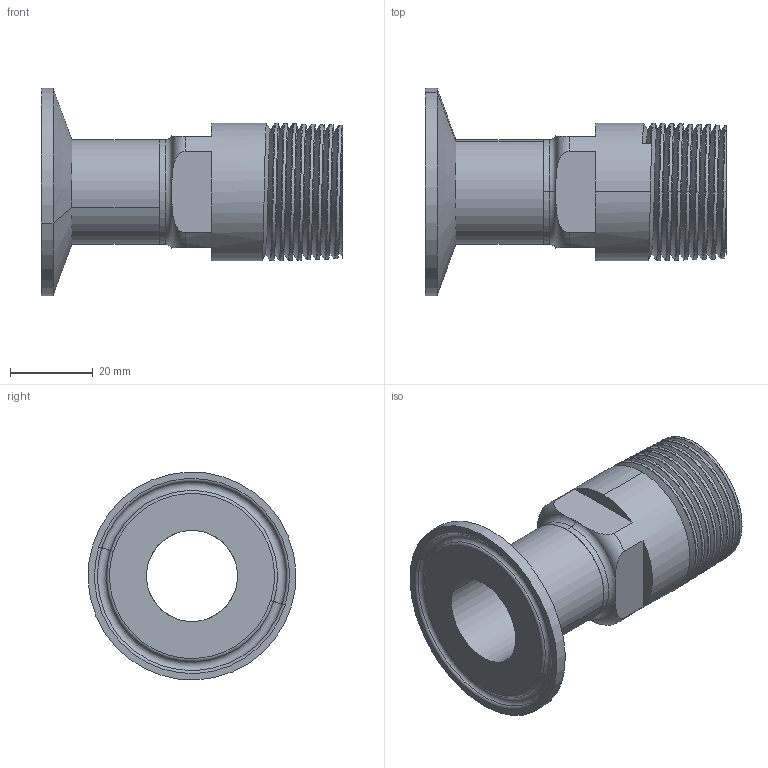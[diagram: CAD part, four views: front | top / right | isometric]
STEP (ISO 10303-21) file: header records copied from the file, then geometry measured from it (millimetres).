
FILE_DESCRIPTION (( 'STEP AP203' ), '1' );
FILE_NAME ('EG21 1.0.STEP', '2021-10-06T15:14:46', ( '' ), ( '' ), 'SwSTEP 2.0', 'SolidWorks 2021', '' );
FILE_SCHEMA (( 'CONFIG_CONTROL_DESIGN' ));
Length unit declared in the file: inch
Products named in the file (3): 19WBF1.0; EG21 1.0; EG14AM71.0
Assembly tree (2 placements, depth 2):
  EG21 1.0
    EG14AM71.0
    19WBF1.0
Bounding box: 73.03 x 50.34 x 50.34 mm (x, y, z)
Volume: 27320.6 mm3; surface area: 18674.1 mm2
Topology: 2 solids, 2 shells, 67 faces, 173 edges, 111 vertices
Faces by surface type: cone 21, plane 18, cylinder 13, torus 12, bspline 3
Entity records: 8305 total; most frequent: CARTESIAN_POINT 6430, ORIENTED_EDGE 346, DIRECTION 311, EDGE_CURVE 173, AXIS2_PLACEMENT_3D 130, VERTEX_POINT 111, EDGE_LOOP 72, ADVANCED_FACE 67
